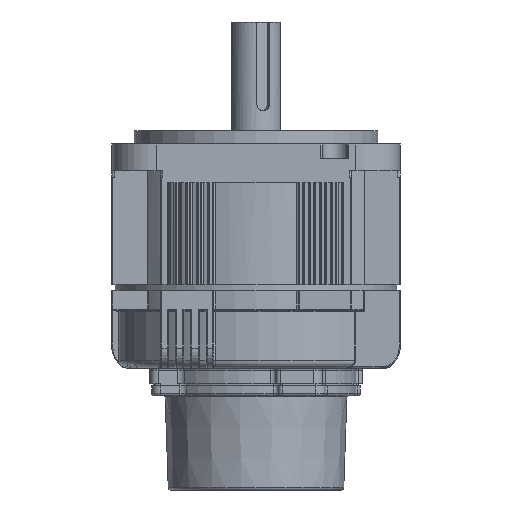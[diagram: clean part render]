
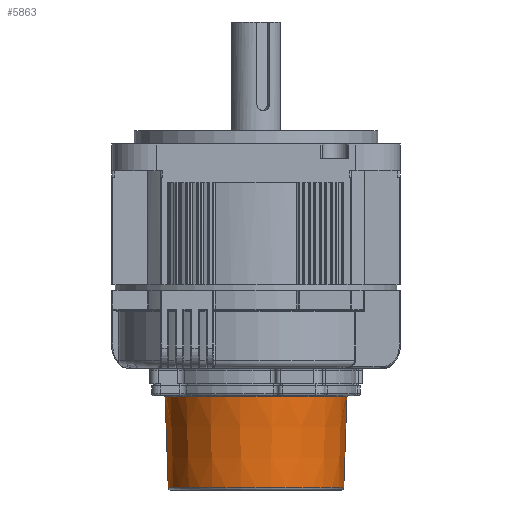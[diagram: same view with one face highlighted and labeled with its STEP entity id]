
A CAD part, front view. The second image highlights one B-rep face of the part: STEP entity #5863.
In plain terms, the highlighted conical face has half-angle 2 degrees and reference radius 41 mm.
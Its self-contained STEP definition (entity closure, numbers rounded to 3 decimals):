
#4049=CARTESIAN_POINT('Vertex',(22.152,3.139,-56.486)) ;
#4052=CARTESIAN_POINT('Axis2P3D Location',(-17.415,3.139,-56.486)) ;
#4056=CARTESIAN_POINT('Vertex',(-56.982,3.139,-56.486)) ;
#5825=CARTESIAN_POINT('Vertex',(23.585,3.139,-15.434)) ;
#5828=CARTESIAN_POINT('Line Origine',(22.851,3.139,-36.451)) ;
#5840=CARTESIAN_POINT('Axis2P3D Location',(-17.415,3.139,-15.451)) ;
#5845=CARTESIAN_POINT('Line Origine',(-57.682,3.139,-36.451)) ;
#5849=CARTESIAN_POINT('Vertex',(-58.416,3.139,-15.434)) ;
#5852=CARTESIAN_POINT('Axis2P3D Location',(-17.415,3.139,-15.434)) ;
#4053=DIRECTION('Axis2P3D Direction',(0.,0.,-1.)) ;
#5829=DIRECTION('Vector Direction',(0.035,0.,0.999)) ;
#5841=DIRECTION('Axis2P3D Direction',(0.,0.,1.)) ;
#5842=DIRECTION('Axis2P3D XDirection',(-1.,0.,0.)) ;
#5846=DIRECTION('Vector Direction',(-0.035,0.,0.999)) ;
#5853=DIRECTION('Axis2P3D Direction',(0.,0.,1.)) ;
#4054=AXIS2_PLACEMENT_3D('Circle Axis2P3D',#4052,#4053,$) ;
#5843=AXIS2_PLACEMENT_3D('Cone Axis2P3D',#5840,#5841,#5842) ;
#5854=AXIS2_PLACEMENT_3D('Circle Axis2P3D',#5852,#5853,$) ;
#5858=ORIENTED_EDGE('',*,*,#5851,.F.) ;
#5859=ORIENTED_EDGE('',*,*,#4058,.F.) ;
#5860=ORIENTED_EDGE('',*,*,#5832,.T.) ;
#5861=ORIENTED_EDGE('',*,*,#5856,.F.) ;
#5830=VECTOR('Line Direction',#5829,1.) ;
#5847=VECTOR('Line Direction',#5846,1.) ;
#5863=ADVANCED_FACE('\X2\96F64EF651E04F554F53\X0\',(#5862),#5844,.T.) ;
#4055=CIRCLE('generated circle',#4054,39.567) ;
#5855=CIRCLE('generated circle',#5854,41.001) ;
#5844=CONICAL_SURFACE('Cone',#5843,41.,0.035) ;
#4058=EDGE_CURVE('',#4050,#4057,#4055,.T.) ;
#5832=EDGE_CURVE('',#4050,#5826,#5831,.T.) ;
#5851=EDGE_CURVE('',#4057,#5850,#5848,.T.) ;
#5856=EDGE_CURVE('',#5850,#5826,#5855,.T.) ;
#5857=EDGE_LOOP('',(#5858,#5859,#5860,#5861)) ;
#5862=FACE_OUTER_BOUND('',#5857,.T.) ;
#5831=LINE('Line',#5828,#5830) ;
#5848=LINE('Line',#5845,#5847) ;
#4050=VERTEX_POINT('',#4049) ;
#4057=VERTEX_POINT('',#4056) ;
#5826=VERTEX_POINT('',#5825) ;
#5850=VERTEX_POINT('',#5849) ;
